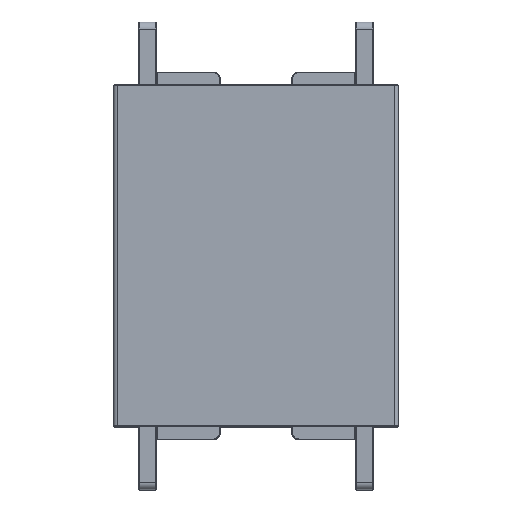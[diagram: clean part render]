
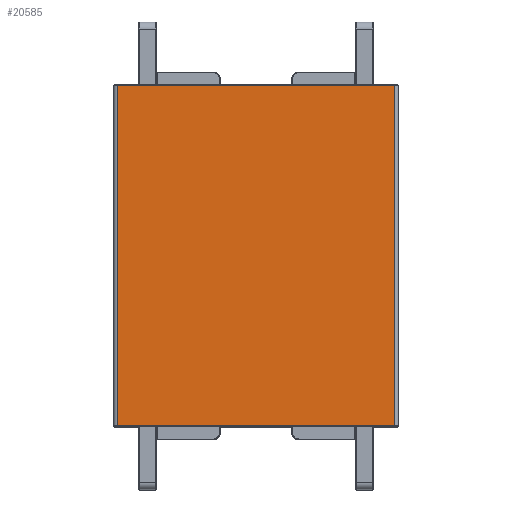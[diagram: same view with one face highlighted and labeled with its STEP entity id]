
A CAD part, top view. The second image highlights one B-rep face of the part: STEP entity #20585.
In plain terms, the highlighted planar face has unit normal (0, 0, 1) as drawn and (0, 0, -1) by its records, which use the part's own axes.
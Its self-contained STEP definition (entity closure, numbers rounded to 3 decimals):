
#6188 = ORIENTED_EDGE ( 'NONE', *, *, #10709, .F. ) ;
#10709 = EDGE_CURVE ( 'NONE', #34002, #60975, #60437, .T. ) ;
#11111 = DIRECTION ( 'NONE',  ( 0., -1., 0. ) ) ;
#14959 = ORIENTED_EDGE ( 'NONE', *, *, #55919, .F. ) ;
#16250 = VECTOR ( 'NONE', #48077, 1000. ) ;
#20489 = VECTOR ( 'NONE', #62477, 1000. ) ;
#20585 = ADVANCED_FACE ( 'NONE', ( #33771 ), #60507, .F. ) ;
#24448 = EDGE_LOOP ( 'NONE', ( #35804, #14959, #56015, #6188 ) ) ;
#24750 = VECTOR ( 'NONE', #11111, 1000. ) ;
#24757 = CARTESIAN_POINT ( 'NONE',  ( 0., 23.9, -2.5 ) ) ;
#29133 = DIRECTION ( 'NONE',  ( 0., 0., 1. ) ) ;
#31462 = LINE ( 'NONE', #24757, #20489 ) ;
#31505 = EDGE_CURVE ( 'NONE', #60975, #67372, #47727, .T. ) ;
#32289 = CARTESIAN_POINT ( 'NONE',  ( -19.5, 0., -2.5 ) ) ;
#33771 = FACE_OUTER_BOUND ( 'NONE', #24448, .T. ) ;
#34002 = VERTEX_POINT ( 'NONE', #64274 ) ;
#34103 = CARTESIAN_POINT ( 'NONE',  ( 19.5, 0., -2.5 ) ) ;
#35804 = ORIENTED_EDGE ( 'NONE', *, *, #41934, .F. ) ;
#40680 = VERTEX_POINT ( 'NONE', #62044 ) ;
#41818 = CARTESIAN_POINT ( 'NONE',  ( 0., -23.9, -2.5 ) ) ;
#41934 = EDGE_CURVE ( 'NONE', #40680, #34002, #31462, .T. ) ;
#42975 = CARTESIAN_POINT ( 'NONE',  ( -19.5, -23.9, -2.5 ) ) ;
#47727 = LINE ( 'NONE', #41818, #16250 ) ;
#48077 = DIRECTION ( 'NONE',  ( 1., 0., 0. ) ) ;
#49890 = DIRECTION ( 'NONE',  ( 0., 1., 0. ) ) ;
#49904 = DIRECTION ( 'NONE',  ( 1., 0., 0. ) ) ;
#55846 = LINE ( 'NONE', #34103, #64218 ) ;
#55919 = EDGE_CURVE ( 'NONE', #67372, #40680, #55846, .T. ) ;
#56015 = ORIENTED_EDGE ( 'NONE', *, *, #31505, .F. ) ;
#56527 = AXIS2_PLACEMENT_3D ( 'NONE', #66128, #29133, #49904 ) ;
#58759 = CARTESIAN_POINT ( 'NONE',  ( 19.5, -23.9, -2.5 ) ) ;
#60437 = LINE ( 'NONE', #32289, #24750 ) ;
#60507 = PLANE ( 'NONE',  #56527 ) ;
#60975 = VERTEX_POINT ( 'NONE', #42975 ) ;
#62044 = CARTESIAN_POINT ( 'NONE',  ( 19.5, 23.9, -2.5 ) ) ;
#62477 = DIRECTION ( 'NONE',  ( -1., 0., 0. ) ) ;
#64218 = VECTOR ( 'NONE', #49890, 1000. ) ;
#64274 = CARTESIAN_POINT ( 'NONE',  ( -19.5, 23.9, -2.5 ) ) ;
#66128 = CARTESIAN_POINT ( 'NONE',  ( 0., 0., -2.5 ) ) ;
#67372 = VERTEX_POINT ( 'NONE', #58759 ) ;
